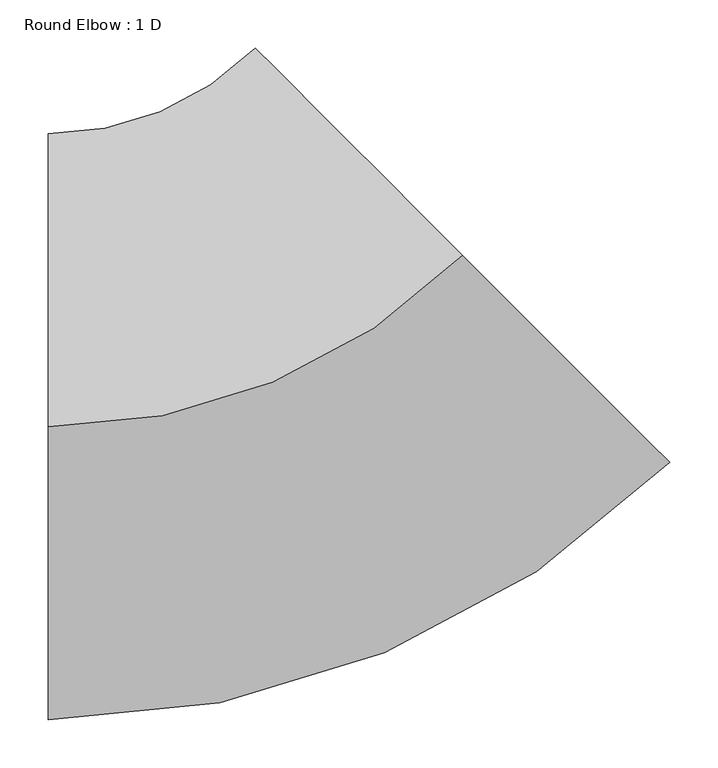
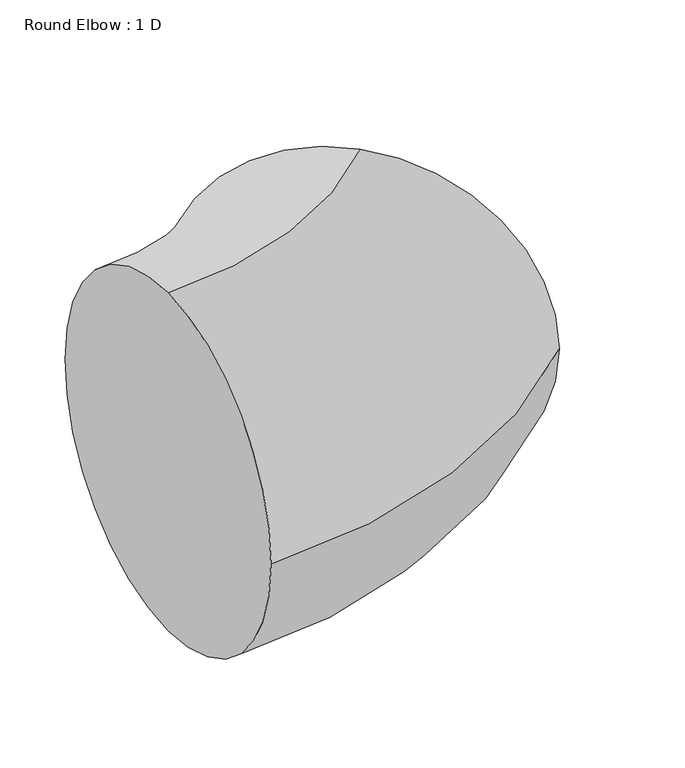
"""IFC4 building model written with IfcOpenShell, lengths in millimetres: duct fitting geometry, Round Elbow : 1 D."""

from ifc_helpers import new_model, si_unit, point, frame, origin, place, context, project, spatial, circle_curve, ellipse_curve, trimmed, source, transform, mapped, element, save
from ifc_brep_helpers import plane_surface, revolved_surface, advanced_brep


def round_elbow_1_d_755a5f0f(model_context):
    return source(origin(), model_context, "Body", "AdvancedBrep", [
        advanced_brep(
        [(-252.5045876, 0.0, 304.8), (-252.5045876, 304.8, 0.0), (-252.5045876, 0.0, -304.8), (-252.5045876, -304.8, 0.0), (178.5477062, 178.5477062, 304.8), (394.0738531, -36.9784407, 0.0), (178.5477062, 178.5477062, -304.8), (-36.9784407, 394.0738531, 0.0)],
        [
            (0, 1, circle_curve(frame((-252.5045876, 0.0, 0.0), z_axis=(-1.0, 0.0, 0.0), x_axis=(0.0, 1.0, 0.0)), 304.8)),
            (1, 2, circle_curve(frame((-252.5045876, 0.0, 0.0), z_axis=(-1.0, 0.0, 0.0), x_axis=(0.0, 1.0, 0.0)), 304.8)),
            (2, 3, circle_curve(frame((-252.5045876, 0.0, 0.0), z_axis=(-1.0, 0.0, 0.0), x_axis=(0.0, 1.0, 0.0)), 304.8)),
            (3, 0, circle_curve(frame((-252.5045876, 0.0, 0.0), z_axis=(-1.0, 0.0, 0.0), x_axis=(0.0, 1.0, 0.0)), 304.8)),
            (4, 5, circle_curve(frame((178.5477062, 178.5477062, 0.0), z_axis=(0.707106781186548, 0.707106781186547, 0.0), x_axis=(-0.707106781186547, 0.707106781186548, 0.0)), 304.8)),
            (5, 6, circle_curve(frame((178.5477062, 178.5477062, 0.0), z_axis=(0.707106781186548, 0.707106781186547, 0.0), x_axis=(-0.707106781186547, 0.707106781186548, 0.0)), 304.8)),
            (6, 7, circle_curve(frame((178.5477062, 178.5477062, 0.0), z_axis=(0.707106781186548, 0.707106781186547, 0.0), x_axis=(-0.707106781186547, 0.707106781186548, 0.0)), 304.8)),
            (7, 4, circle_curve(frame((178.5477062, 178.5477062, 0.0), z_axis=(0.707106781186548, 0.707106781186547, 0.0), x_axis=(-0.707106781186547, 0.707106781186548, 0.0)), 304.8)),
            (7, 1, circle_curve(frame((-252.5045876, 609.6, 0.0), z_axis=(0.0, 0.0, -1.0), x_axis=(0.0, -1.0, 0.0)), 304.8)),
            (0, 4, circle_curve(frame((-252.5045876, 609.6, 304.8), z_axis=(0.0, 0.0, 1.0), x_axis=(0.0, -1.0, 0.0)), 609.6)),
            (6, 2, circle_curve(frame((-252.5045876, 609.6, -304.8), z_axis=(0.0, 0.0, -1.0), x_axis=(0.0, -1.0, 0.0)), 609.6)),
            (5, 3, circle_curve(frame((-252.5045876, 609.6, 0.0), z_axis=(0.0, 0.0, -1.0), x_axis=(0.0, -1.0, 0.0)), 914.4)),
        ],
        [
            plane_surface(frame((-252.5045876, 0.0, 0.0), z_axis=(-1.0, 0.0, 0.0), x_axis=(0.0, 0.0, 1.0))),
            plane_surface(frame((178.5477062, 178.5477062, 0.0), z_axis=(0.707106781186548, 0.7071067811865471, 0.0), x_axis=(0.0, 0.0, 1.0))),
            revolved_surface(trimmed(ellipse_curve(frame((-252.5045876, 0.0, 0.0), z_axis=(-1.0, 0.0, 0.0), x_axis=(0.0, 1.0, 0.0)), 304.8, 304.8), [point((-252.5045876, 0.0, 304.8))], [point((-252.5045876, 304.8, 0.0))], True, "CARTESIAN"), (-252.5045876, 609.6, 0.0), (0.0, 0.0, 1.0)),
            revolved_surface(trimmed(ellipse_curve(frame((-252.5045876, 0.0, 0.0), z_axis=(-1.0, 0.0, 0.0), x_axis=(0.0, 1.0, 0.0)), 304.8, 304.8), [point((-252.5045876, 304.8, 0.0))], [point((-252.5045876, 0.0, -304.8))], True, "CARTESIAN"), (-252.5045876, 609.6, 0.0), (0.0, 0.0, 1.0)),
            revolved_surface(trimmed(ellipse_curve(frame((-252.5045876, 0.0, 0.0), z_axis=(-1.0, 0.0, 0.0), x_axis=(0.0, 1.0, 0.0)), 304.8, 304.8), [point((-252.5045876, 0.0, -304.8))], [point((-252.5045876, -304.8, 0.0))], True, "CARTESIAN"), (-252.5045876, 609.6, 0.0), (0.0, 0.0, 1.0)),
            revolved_surface(trimmed(ellipse_curve(frame((-252.5045876, 0.0, 0.0), z_axis=(-1.0, 0.0, 0.0), x_axis=(0.0, 1.0, 0.0)), 304.8, 304.8), [point((-252.5045876, -304.8, 0.0))], [point((-252.5045876, 0.0, 304.8))], True, "CARTESIAN"), (-252.5045876, 609.6, 0.0), (0.0, 0.0, 1.0)),
        ],
        [
            (0, [[1, 2, 3, 4]]),
            (1, [[5, 6, 7, 8]]),
            (2, [[9, -1, 10, -8]]),
            (3, [[11, -2, -9, -7]]),
            (4, [[12, -3, -11, -6]]),
            (5, [[-10, -4, -12, -5]]),
        ],
    ),
    ])


if __name__ == "__main__":
    model = new_model("IFC4")
    model_context = context("Model", 3, world=origin())
    ifc_project = project(units=[si_unit("LENGTHUNIT", "METRE", prefix="MILLI")], contexts=[model_context])
    site = spatial("IfcSite", under=ifc_project)
    building = spatial("IfcBuilding", under=site)
    placement = place(None, origin())
    round_elbow_1_d_shape = round_elbow_1_d_755a5f0f(model_context)
    element("IfcDuctFitting", 1, ObjectType="Round Elbow : 1 D", at=placement, inside=building, context=model_context, shape_type="MappedRepresentation", body=[
        mapped(round_elbow_1_d_shape, transform((0.0, 0.0, 0.0), x_axis=(1.0, 0.0, 0.0), y_axis=(0.0, 1.0, 0.0), z_axis=(0.0, 0.0, 1.0))),
    ])
    save(model, "model.ifc")
